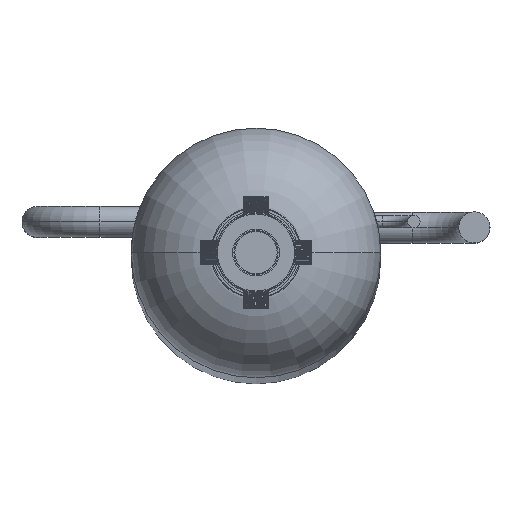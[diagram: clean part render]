
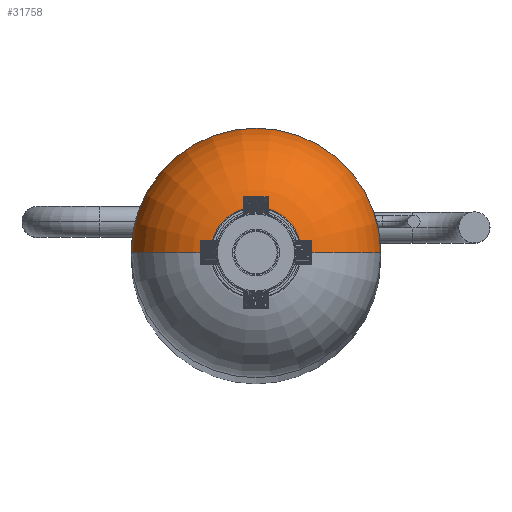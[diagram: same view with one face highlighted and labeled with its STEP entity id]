
A CAD part, top view. The second image highlights one B-rep face of the part: STEP entity #31758.
In plain terms, the highlighted toroidal (fillet/blend) face has major radius 10 mm and minor radius 30 mm.
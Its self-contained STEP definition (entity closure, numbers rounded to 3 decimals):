
#1097 = ORIENTED_EDGE ( 'NONE', *, *, #52558, .T. ) ;
#2211 = DIRECTION ( 'NONE',  ( 0., 0., -1. ) ) ;
#2548 = CARTESIAN_POINT ( 'NONE',  ( -10., 0., 565. ) ) ;
#3352 = VERTEX_POINT ( 'NONE', #53648 ) ;
#3446 = AXIS2_PLACEMENT_3D ( 'NONE', #49922, #23793, #15163 ) ;
#4305 = CARTESIAN_POINT ( 'NONE',  ( 0., 0., 565. ) ) ;
#4865 = DIRECTION ( 'NONE',  ( 0., 0., 1. ) ) ;
#5814 = EDGE_CURVE ( 'NONE', #3352, #48203, #38303, .T. ) ;
#8146 = AXIS2_PLACEMENT_3D ( 'NONE', #28633, #24331, #2211 ) ;
#11477 = EDGE_CURVE ( 'NONE', #23004, #3352, #24666, .T. ) ;
#15117 = EDGE_CURVE ( 'NONE', #28844, #23004, #40273, .T. ) ;
#15163 = DIRECTION ( 'NONE',  ( 1., 0., 0. ) ) ;
#15505 = AXIS2_PLACEMENT_3D ( 'NONE', #30162, #31001, #35598 ) ;
#17430 = DIRECTION ( 'NONE',  ( 0., 1., 0. ) ) ;
#18361 = DIRECTION ( 'NONE',  ( 1., 0., 0. ) ) ;
#20301 = ORIENTED_EDGE ( 'NONE', *, *, #11477, .F. ) ;
#20963 = EDGE_LOOP ( 'NONE', ( #21661, #1097, #41058, #20301 ) ) ;
#21661 = ORIENTED_EDGE ( 'NONE', *, *, #15117, .F. ) ;
#23004 = VERTEX_POINT ( 'NONE', #46009 ) ;
#23024 = TOROIDAL_SURFACE ( 'NONE', #49595, 10., 30. ) ;
#23793 = DIRECTION ( 'NONE',  ( 0., 0., 1. ) ) ;
#24331 = DIRECTION ( 'NONE',  ( 0., -1., 0. ) ) ;
#24666 = CIRCLE ( 'NONE', #8146, 30. ) ;
#25505 = DIRECTION ( 'NONE',  ( -1., 0., 0. ) ) ;
#28633 = CARTESIAN_POINT ( 'NONE',  ( 10., 0., 565. ) ) ;
#28844 = VERTEX_POINT ( 'NONE', #49492 ) ;
#30162 = CARTESIAN_POINT ( 'NONE',  ( 0., 0., 565. ) ) ;
#31001 = DIRECTION ( 'NONE',  ( 0., 0., -1. ) ) ;
#31758 = ADVANCED_FACE ( 'NONE', ( #35890 ), #23024, .T. ) ;
#35598 = DIRECTION ( 'NONE',  ( 1., 0., 0. ) ) ;
#35890 = FACE_OUTER_BOUND ( 'NONE', #20963, .T. ) ;
#38208 = AXIS2_PLACEMENT_3D ( 'NONE', #2548, #17430, #25505 ) ;
#38303 = CIRCLE ( 'NONE', #3446, 10. ) ;
#40273 = CIRCLE ( 'NONE', #15505, 40. ) ;
#41058 = ORIENTED_EDGE ( 'NONE', *, *, #5814, .F. ) ;
#43103 = CARTESIAN_POINT ( 'NONE',  ( -10., 0., 595. ) ) ;
#46009 = CARTESIAN_POINT ( 'NONE',  ( 40., 0., 565. ) ) ;
#48203 = VERTEX_POINT ( 'NONE', #43103 ) ;
#49179 = CIRCLE ( 'NONE', #38208, 30. ) ;
#49492 = CARTESIAN_POINT ( 'NONE',  ( -40., 0., 565. ) ) ;
#49595 = AXIS2_PLACEMENT_3D ( 'NONE', #4305, #4865, #18361 ) ;
#49922 = CARTESIAN_POINT ( 'NONE',  ( 0., 0., 595. ) ) ;
#52558 = EDGE_CURVE ( 'NONE', #28844, #48203, #49179, .T. ) ;
#53648 = CARTESIAN_POINT ( 'NONE',  ( 10., 0., 595. ) ) ;
